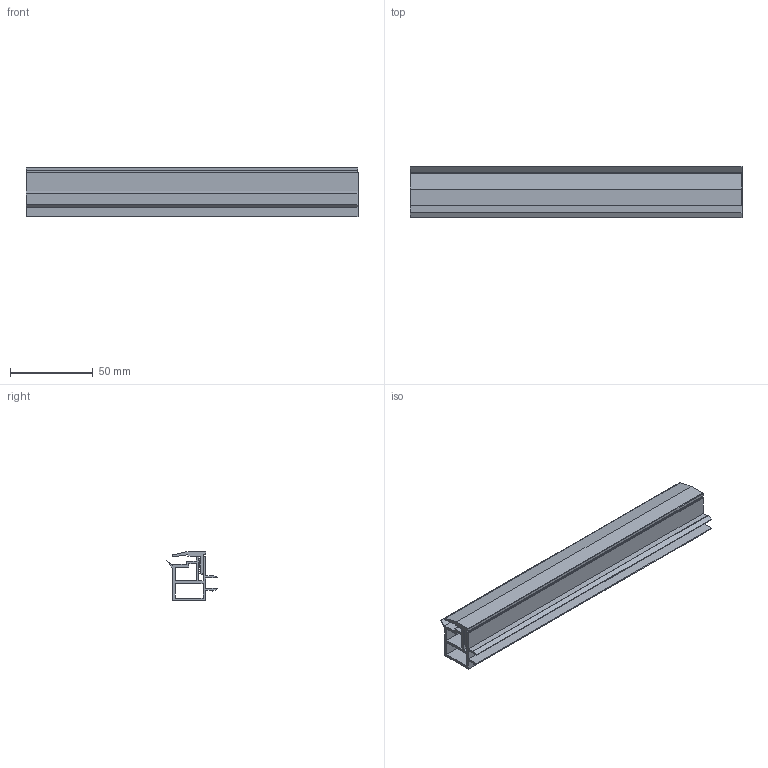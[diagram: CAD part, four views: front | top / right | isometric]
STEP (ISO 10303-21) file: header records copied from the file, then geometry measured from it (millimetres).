
FILE_DESCRIPTION(/* description */ (''),/* implementation_level */ '2;1');
FILE_NAME(/* name */ 'C:\Users\Owner\Documents\硯聰\Inv材料庫-自訂\共用配件\AMG-08F(AB).stp',/* time_stamp */ '2019-05-02T15:16:39+08:00',/* author */ ('Owner'),/* organization */ (''),/* preprocessor_version */ 'ST-DEVELOPER v16.1',/* originating_system */ 'Autodesk Inventor 2016',/* authorisation */ '');
FILE_SCHEMA (('AUTOMOTIVE_DESIGN { 1 0 10303 214 3 1 1 }'));
Length unit declared in the file: millimetre
Products named in the file (3): AMG-08F(AB)-公; AMG-08F(AB)-母; 組合16
Assembly tree (2 placements, depth 2):
  組合16
    AMG-08F(AB)-公
    AMG-08F(AB)-母
Bounding box: 200 x 30.73 x 29.9 mm (x, y, z)
Volume: 51568.3 mm3; surface area: 67259.6 mm2
Topology: 2 solids, 2 shells, 108 faces, 312 edges, 208 vertices
Faces by surface type: plane 84, cylinder 24
Entity records: 3597 total; most frequent: CARTESIAN_POINT 633, ORIENTED_EDGE 624, DIRECTION 586, EDGE_CURVE 312, LINE 264, VECTOR 264, VERTEX_POINT 208, AXIS2_PLACEMENT_3D 161
